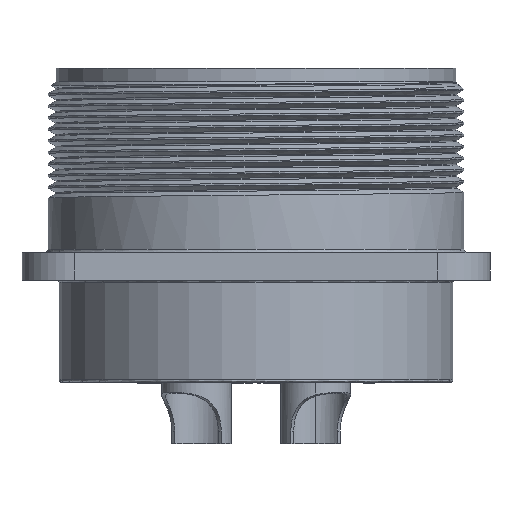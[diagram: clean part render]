
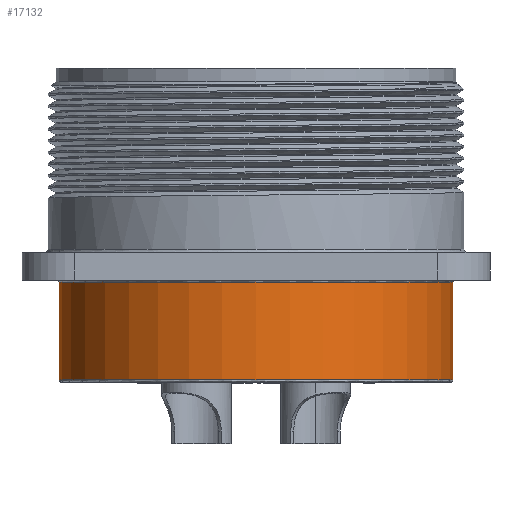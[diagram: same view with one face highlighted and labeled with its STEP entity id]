
A CAD part, front view. The second image highlights one B-rep face of the part: STEP entity #17132.
In plain terms, the highlighted cylindrical face has radius 23.95 mm (diameter 47.9 mm), a partial arc.
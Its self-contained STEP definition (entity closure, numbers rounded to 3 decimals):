
#895 = DIRECTION ( 'NONE',  ( -1., 0., 0. ) ) ;
#2795 = FACE_OUTER_BOUND ( 'NONE', #12700, .T. ) ;
#2911 = CIRCLE ( 'NONE', #3664, 23.95 ) ;
#3664 = AXIS2_PLACEMENT_3D ( 'NONE', #35385, #18286, #895 ) ;
#3997 = CARTESIAN_POINT ( 'NONE',  ( 0., 0., -25.75 ) ) ;
#4140 = CARTESIAN_POINT ( 'NONE',  ( 0., 0., -37.85 ) ) ;
#5127 = AXIS2_PLACEMENT_3D ( 'NONE', #4140, #24397, #7109 ) ;
#6432 = VERTEX_POINT ( 'NONE', #23671 ) ;
#6657 = CARTESIAN_POINT ( 'NONE',  ( -23.95, 0., -25.75 ) ) ;
#7109 = DIRECTION ( 'NONE',  ( -1., 0., 0. ) ) ;
#7194 = VERTEX_POINT ( 'NONE', #7666 ) ;
#7666 = CARTESIAN_POINT ( 'NONE',  ( -23.95, 0., -37.85 ) ) ;
#10155 = CARTESIAN_POINT ( 'NONE',  ( 23.95, 0., -25.75 ) ) ;
#11835 = VECTOR ( 'NONE', #21070, 1000. ) ;
#12700 = EDGE_LOOP ( 'NONE', ( #16551, #18360, #33761, #14300 ) ) ;
#12767 = LINE ( 'NONE', #6657, #11835 ) ;
#14048 = EDGE_CURVE ( 'NONE', #7194, #6432, #15255, .T. ) ;
#14300 = ORIENTED_EDGE ( 'NONE', *, *, #14048, .T. ) ;
#14829 = EDGE_CURVE ( 'NONE', #31824, #32151, #2911, .T. ) ;
#15255 = CIRCLE ( 'NONE', #5127, 23.95 ) ;
#16551 = ORIENTED_EDGE ( 'NONE', *, *, #30916, .F. ) ;
#17132 = ADVANCED_FACE ( 'NONE', ( #2795 ), #17349, .T. ) ;
#17349 = CYLINDRICAL_SURFACE ( 'NONE', #36697, 23.95 ) ;
#18286 = DIRECTION ( 'NONE',  ( 0., 0., -1. ) ) ;
#18360 = ORIENTED_EDGE ( 'NONE', *, *, #14829, .T. ) ;
#21070 = DIRECTION ( 'NONE',  ( 0., 0., -1. ) ) ;
#21338 = DIRECTION ( 'NONE',  ( 0., 0., -1. ) ) ;
#23671 = CARTESIAN_POINT ( 'NONE',  ( 23.95, 0., -37.85 ) ) ;
#24004 = CARTESIAN_POINT ( 'NONE',  ( -23.95, 0., -26. ) ) ;
#24242 = DIRECTION ( 'NONE',  ( -1., 0., 0. ) ) ;
#24397 = DIRECTION ( 'NONE',  ( 0., 0., 1. ) ) ;
#24616 = DIRECTION ( 'NONE',  ( 0., 0., -1. ) ) ;
#25368 = EDGE_CURVE ( 'NONE', #32151, #7194, #12767, .T. ) ;
#30664 = CARTESIAN_POINT ( 'NONE',  ( 23.95, 0., -26. ) ) ;
#30916 = EDGE_CURVE ( 'NONE', #31824, #6432, #37241, .T. ) ;
#31824 = VERTEX_POINT ( 'NONE', #30664 ) ;
#32151 = VERTEX_POINT ( 'NONE', #24004 ) ;
#33761 = ORIENTED_EDGE ( 'NONE', *, *, #25368, .T. ) ;
#35385 = CARTESIAN_POINT ( 'NONE',  ( 0., 0., -26. ) ) ;
#36348 = VECTOR ( 'NONE', #24616, 1000. ) ;
#36697 = AXIS2_PLACEMENT_3D ( 'NONE', #3997, #21338, #24242 ) ;
#37241 = LINE ( 'NONE', #10155, #36348 ) ;
